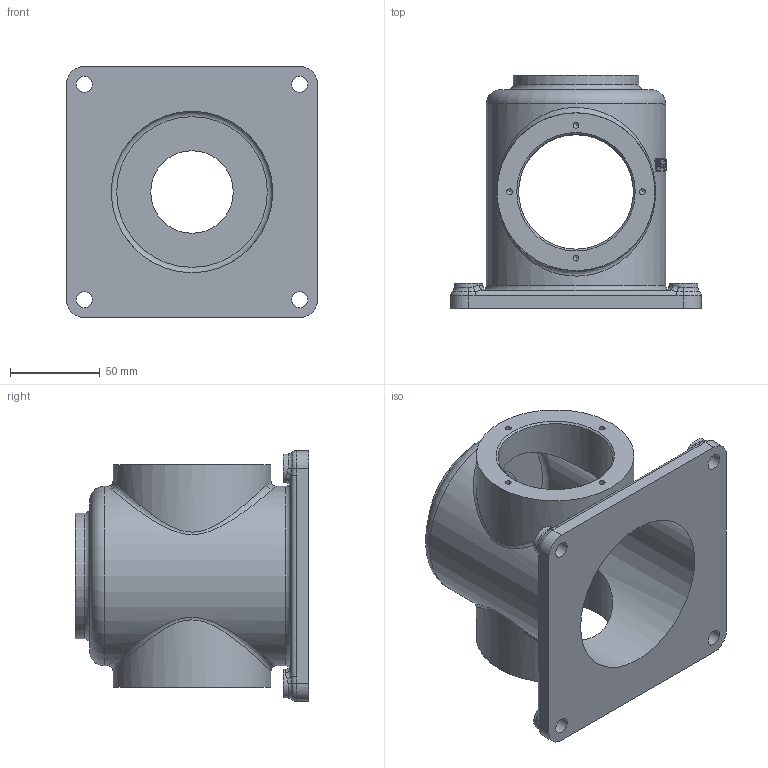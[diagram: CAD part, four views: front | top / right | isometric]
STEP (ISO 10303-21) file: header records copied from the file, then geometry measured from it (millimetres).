
FILE_DESCRIPTION(/* description */ (''),/* implementation_level */ '2;1');
FILE_NAME(/* name */ 'C:\Users\User\Desktop\750505V1001\본체.stp',/* time_stamp */ '2025-05-07T18:06:56+09:00',/* author */ ('User'),/* organization */ (''),/* preprocessor_version */ 'ST-DEVELOPER v19',/* originating_system */ 'Autodesk Inventor 2023',/* authorisation */ '');
FILE_SCHEMA (('AUTOMOTIVE_DESIGN { 1 0 10303 214 3 1 1 }'));
Length unit declared in the file: millimetre
Products named in the file (1): 본체
Bounding box: 140 x 130 x 140 mm (x, y, z)
Volume: 418837.4 mm3; surface area: 120142.6 mm2
Topology: 1 solids, 1 shells, 301 faces, 789 edges, 511 vertices
Faces by surface type: plane 115, bspline 94, cylinder 61, torus 16, cone 15
Full cylindrical faces by diameter (mm): 3.242 x12, 9 x4, 16 x4, 46 x1, 64 x2, 70 x1, 88 x2, 90 x1, 100 x1
Entity records: 11616 total; most frequent: CARTESIAN_POINT 4615, ORIENTED_EDGE 1554, DIRECTION 1248, EDGE_CURVE 777, VERTEX_POINT 511, AXIS2_PLACEMENT_3D 459, EDGE_LOOP 348, LINE 330
